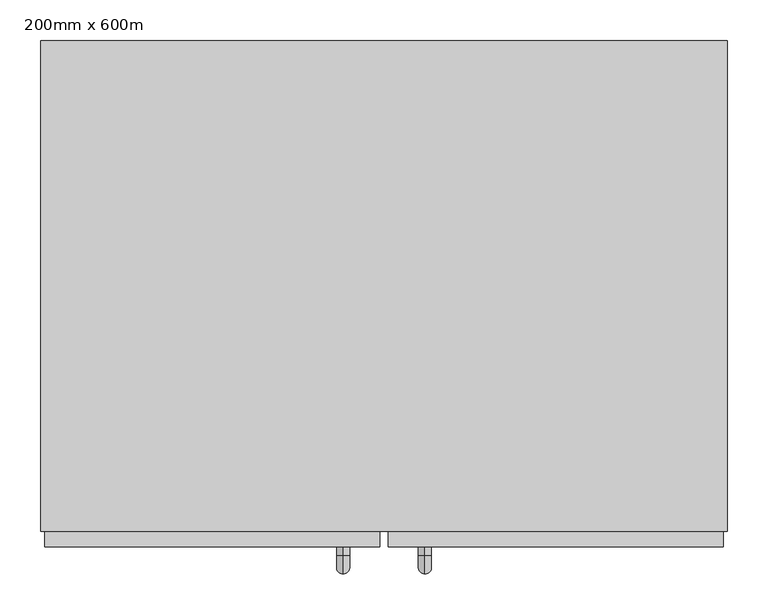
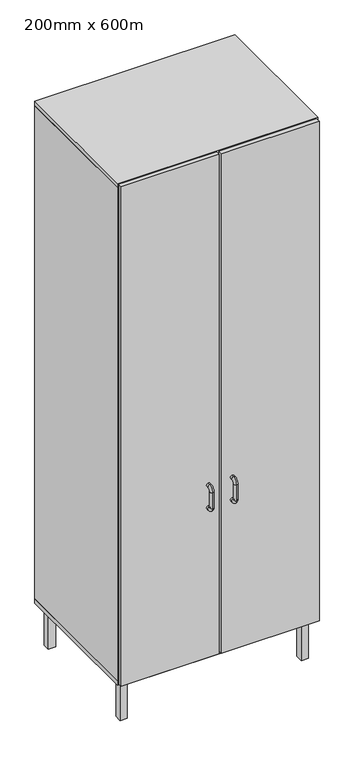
"""IFC4 building model written with IfcOpenShell, lengths in millimetres: furniture geometry, Armoire - 2 portes : 200mm x 600m."""

from ifc_helpers import new_model, si_unit, point, frame, origin, place, context, project, spatial, polyline, circle_curve, ellipse_curve, trimmed, outline, extrude, faceted_brep, source, transform, mapped, element, save
from ifc_brep_helpers import plane_surface, cylinder_surface, revolved_surface, advanced_brep


def furniture_200mm_x_600m_94c9277c(model_context):
    return source(origin(), model_context, "Body", "SolidModel", [
        extrude(outline(polyline([(500.4853226, 265.0), (-300.4853226, 265.0), (-300.4853226, 275.0), (500.4853226, 275.0), (500.4853226, 265.0)])), frame((0.0, 0.0, 199.0), z_axis=(0.0, 0.0, 1.0), x_axis=(1.0, 0.0, 0.0)), (0.0, 0.0, 1.0), 2182.0),
        extrude(outline(polyline([(-300.4853226, -325.0), (-319.4853226, -325.0), (-319.4853226, 275.0), (-300.4853226, 275.0), (-300.4853226, -325.0)])), frame((0.0, 0.0, 199.0), z_axis=(0.0, 0.0, 1.0), x_axis=(1.0, 0.0, 0.0)), (0.0, 0.0, 1.0), 2182.0),
        extrude(outline(polyline([(519.4853226, -325.0), (500.4853226, -325.0), (500.4853226, 275.0), (519.4853226, 275.0), (519.4853226, -325.0)])), frame((0.0, 0.0, 199.0), z_axis=(0.0, 0.0, 1.0), x_axis=(1.0, 0.0, 0.0)), (0.0, 0.0, 1.0), 2182.0),
        faceted_brep([(464.4853226, -270.0, 150.0), (464.4853226, -270.0, 180.0), (464.4853226, 220.0, 180.0), (464.4853226, 220.0, 150.0), (494.4853226, -300.0, 0.0), (494.4853226, -270.0, 0.0), (494.4853226, -270.0, 150.0), (494.4853226, 220.0, 150.0), (494.4853226, 220.0, 0.0), (494.4853226, 250.0, 0.0), (494.4853226, 250.0, 180.0), (494.4853226, -300.0, 180.0), (-264.4853226, 220.0, 180.0), (-264.4853226, 220.0, 150.0), (464.4853226, 250.0, 0.0), (464.4853226, 250.0, 150.0), (-264.4853226, 250.0, 150.0), (-264.4853226, 250.0, 0.0), (-294.4853226, 250.0, 0.0), (-294.4853226, 250.0, 180.0), (-264.4853226, -270.0, 180.0), (-264.4853226, -270.0, 150.0), (-294.4853226, 220.0, 0.0), (-294.4853226, 220.0, 150.0), (-294.4853226, -270.0, 150.0), (-294.4853226, -270.0, 0.0), (-294.4853226, -300.0, 0.0), (-294.4853226, -300.0, 180.0), (464.4853226, -300.0, 150.0), (-264.4853226, -300.0, 150.0), (-264.4853226, -300.0, 0.0), (464.4853226, -300.0, 0.0), (-264.4853226, -270.0, 0.0), (464.4853226, -270.0, 0.0), (-264.4853226, 220.0, 0.0), (464.4853226, 220.0, 0.0)], [[[0, 1, 2, 3]], [[4, 5, 6, 7, 8, 9, 10, 11]], [[3, 2, 12, 13]], [[10, 9, 14, 15, 16, 17, 18, 19]], [[13, 12, 20, 21]], [[19, 18, 22, 23, 24, 25, 26, 27]], [[1, 0, 21, 20]], [[0, 3, 7, 6]], [[3, 13, 16, 15]], [[13, 21, 24, 23]], [[21, 0, 28, 29]], [[4, 11, 27, 26, 30, 29, 28, 31]], [[10, 19, 27, 11], [2, 1, 20, 12]], [[30, 26, 25, 32]], [[4, 31, 33, 5]], [[34, 22, 18, 17]], [[8, 35, 14, 9]], [[30, 32, 21, 29]], [[32, 25, 24, 21]], [[34, 17, 16, 13]], [[22, 34, 13, 23]], [[14, 35, 3, 15]], [[35, 8, 7, 3]], [[5, 33, 0, 6]], [[33, 31, 28, 0]]]),
        extrude(outline(polyline([(95.0, -344.0), (-314.4853226, -344.0), (-314.4853226, -325.0), (95.0, -325.0), (95.0, -344.0)])), frame((0.0, 0.0, 185.0), z_axis=(0.0, 0.0, 1.0), x_axis=(1.0, 0.0, 0.0)), (0.0, 0.0, 1.0), 2210.0),
        extrude(outline(polyline([(514.4853226, -344.0), (105.0, -344.0), (105.0, -325.0), (514.4853226, -325.0), (514.4853226, -344.0)])), frame((0.0, 0.0, 185.0), z_axis=(0.0, 0.0, 1.0), x_axis=(1.0, 0.0, 0.0)), (0.0, 0.0, 1.0), 2210.0),
        extrude(outline(polyline([(519.4853226, -325.0), (-319.4853226, -325.0), (-319.4853226, 275.0), (519.4853226, 275.0), (519.4853226, -325.0)])), frame((0.0, 0.0, 180.0), z_axis=(0.0, 0.0, 1.0), x_axis=(1.0, 0.0, 0.0)), (0.0, 0.0, 1.0), 19.0),
        extrude(outline(polyline([(519.4853226, -325.0), (-319.4853226, -325.0), (-319.4853226, 275.0), (519.4853226, 275.0), (519.4853226, -325.0)])), frame((0.0, 0.0, 2381.0), z_axis=(0.0, 0.0, 1.0), x_axis=(1.0, 0.0, 0.0)), (0.0, 0.0, 1.0), 19.0),
        advanced_brep(
        [(50.0, -344.0, 958.0), (50.0, -344.0, 942.0), (50.0, -354.0, 958.0), (50.0, -354.0, 942.0), (50.0, -361.0, 935.0), (50.0, -377.0, 935.0), (50.0, -377.0, 865.0), (50.0, -361.0, 865.0), (50.0, -354.0, 858.0), (50.0, -354.0, 842.0), (50.0, -344.0, 842.0), (50.0, -344.0, 858.0)],
        [
            (0, 1, circle_curve(frame((50.0, -344.0, 950.0), z_axis=(0.0, 1.0, 0.0), x_axis=(0.0, 0.0, -1.0)), 8.0)),
            (1, 0, circle_curve(frame((50.0, -344.0, 950.0), z_axis=(0.0, 1.0, 0.0), x_axis=(0.0, 0.0, -1.0)), 8.0)),
            (0, 2),
            (2, 3, circle_curve(frame((50.0, -354.0, 950.0), z_axis=(0.0, 1.0, 0.0), x_axis=(0.0, 0.0, -1.0)), 8.0)),
            (3, 1),
            (3, 2, circle_curve(frame((50.0, -354.0, 950.0), z_axis=(0.0, 1.0, 0.0), x_axis=(0.0, 0.0, -1.0)), 8.0)),
            (4, 3, circle_curve(frame((50.0, -354.0, 935.0), z_axis=(-1.0, 0.0, 0.0), x_axis=(0.0, 0.0, 1.0)), 7.0)),
            (2, 5, circle_curve(frame((50.0, -354.0, 935.0), z_axis=(1.0, 0.0, 0.0), x_axis=(0.0, 0.0, 1.0)), 23.0)),
            (5, 4, circle_curve(frame((50.0, -369.0, 935.0), z_axis=(0.0, 0.0, 1.0), x_axis=(0.0, 1.0, 0.0)), 8.0)),
            (4, 5, circle_curve(frame((50.0, -369.0, 935.0), z_axis=(0.0, 0.0, 1.0), x_axis=(0.0, 1.0, 0.0)), 8.0)),
            (5, 6),
            (6, 7, circle_curve(frame((50.0, -369.0, 865.0), z_axis=(0.0, 0.0, 1.0), x_axis=(0.0, 1.0, 0.0)), 8.0)),
            (7, 4),
            (7, 6, circle_curve(frame((50.0, -369.0, 865.0), z_axis=(0.0, 0.0, 1.0), x_axis=(0.0, 1.0, 0.0)), 8.0)),
            (8, 7, circle_curve(frame((50.0, -354.0, 865.0), z_axis=(-1.0, 0.0, 0.0), x_axis=(0.0, -1.0, 0.0)), 7.0)),
            (6, 9, circle_curve(frame((50.0, -354.0, 865.0), z_axis=(1.0, 0.0, 0.0), x_axis=(0.0, -1.0, 0.0)), 23.0)),
            (9, 8, circle_curve(frame((50.0, -354.0, 850.0), z_axis=(0.0, -1.0, 0.0), x_axis=(0.0, 0.0, 1.0)), 8.0)),
            (8, 9, circle_curve(frame((50.0, -354.0, 850.0), z_axis=(0.0, -1.0, 0.0), x_axis=(0.0, 0.0, 1.0)), 8.0)),
            (10, 11, circle_curve(frame((50.0, -344.0, 850.0), z_axis=(0.0, 1.0, 0.0), x_axis=(0.0, 0.0, 1.0)), 8.0)),
            (11, 10, circle_curve(frame((50.0, -344.0, 850.0), z_axis=(0.0, 1.0, 0.0), x_axis=(0.0, 0.0, 1.0)), 8.0)),
            (9, 10),
            (11, 8),
        ],
        [
            plane_surface(frame((100.0, -344.0, 950.0), z_axis=(0.0, 1.0, 0.0), x_axis=(1.0, 0.0, 0.0))),
            cylinder_surface(frame((50.0, -344.0, 950.0), z_axis=(0.0, 1.0, 0.0), x_axis=(0.0, 0.0, -1.0)), 8.0),
            revolved_surface(trimmed(ellipse_curve(frame((50.0, -354.0, 950.0), z_axis=(0.0, 1.0, 0.0), x_axis=(0.0, 0.0, -1.0)), 8.0, 8.0), [point((50.0, -354.0, 958.0))], [point((50.0, -354.0, 942.0))], True, "CARTESIAN"), (100.0, -354.0, 935.0), (1.0, 0.0, 0.0)),
            revolved_surface(trimmed(ellipse_curve(frame((50.0, -354.0, 950.0), z_axis=(0.0, 1.0, 0.0), x_axis=(0.0, 0.0, -1.0)), 8.0, 8.0), [point((50.0, -354.0, 942.0))], [point((50.0, -354.0, 958.0))], True, "CARTESIAN"), (100.0, -354.0, 935.0), (1.0, 0.0, 0.0)),
            cylinder_surface(frame((50.0, -369.0, 935.0), z_axis=(0.0, 0.0, 1.0), x_axis=(0.0, 1.0, 0.0)), 8.0),
            revolved_surface(trimmed(ellipse_curve(frame((50.0, -369.0, 865.0), z_axis=(0.0, 0.0, 1.0), x_axis=(0.0, 1.0, 0.0)), 8.0, 8.0), [point((50.0, -377.0, 865.0))], [point((50.0, -361.0, 865.0))], True, "CARTESIAN"), (100.0, -354.0, 865.0), (1.0, 0.0, 0.0)),
            revolved_surface(trimmed(ellipse_curve(frame((50.0, -369.0, 865.0), z_axis=(0.0, 0.0, 1.0), x_axis=(0.0, 1.0, 0.0)), 8.0, 8.0), [point((50.0, -361.0, 865.0))], [point((50.0, -377.0, 865.0))], True, "CARTESIAN"), (100.0, -354.0, 865.0), (1.0, 0.0, 0.0)),
            plane_surface(frame((100.0, -344.0, 850.0), z_axis=(0.0, 1.0, 0.0), x_axis=(1.0, 0.0, 0.0))),
            cylinder_surface(frame((50.0, -354.0, 850.0), z_axis=(0.0, -1.0, 0.0), x_axis=(0.0, 0.0, 1.0)), 8.0),
        ],
        [
            (0, [[1, 2]]),
            (1, [[-1, 3, 4, 5]]),
            (1, [[-2, -5, 6, -3]]),
            (2, [[7, -4, 8, 9]]),
            (3, [[-8, -6, -7, 10]]),
            (4, [[-9, 11, 12, 13]]),
            (4, [[-10, -13, 14, -11]]),
            (5, [[15, -12, 16, 17]]),
            (6, [[-16, -14, -15, 18]]),
            (7, [[19, 20]]),
            (8, [[-17, 21, -20, 22]]),
            (8, [[-18, -22, -19, -21]]),
        ],
    ),
        advanced_brep(
        [(150.0, -344.0, 958.0), (150.0, -344.0, 942.0), (150.0, -354.0, 958.0), (150.0, -354.0, 942.0), (150.0, -361.0, 935.0), (150.0, -377.0, 935.0), (150.0, -377.0, 865.0), (150.0, -361.0, 865.0), (150.0, -354.0, 858.0), (150.0, -354.0, 842.0), (150.0, -344.0, 842.0), (150.0, -344.0, 858.0)],
        [
            (0, 1, circle_curve(frame((150.0, -344.0, 950.0), z_axis=(0.0, 1.0, 0.0), x_axis=(0.0, 0.0, -1.0)), 8.0)),
            (1, 0, circle_curve(frame((150.0, -344.0, 950.0), z_axis=(0.0, 1.0, 0.0), x_axis=(0.0, 0.0, -1.0)), 8.0)),
            (0, 2),
            (2, 3, circle_curve(frame((150.0, -354.0, 950.0), z_axis=(0.0, 1.0, 0.0), x_axis=(0.0, 0.0, -1.0)), 8.0)),
            (3, 1),
            (3, 2, circle_curve(frame((150.0, -354.0, 950.0), z_axis=(0.0, 1.0, 0.0), x_axis=(0.0, 0.0, -1.0)), 8.0)),
            (4, 3, circle_curve(frame((150.0, -354.0, 935.0), z_axis=(-1.0, 0.0, 0.0), x_axis=(0.0, 0.0, 1.0)), 7.0)),
            (2, 5, circle_curve(frame((150.0, -354.0, 935.0), z_axis=(1.0, 0.0, 0.0), x_axis=(0.0, 0.0, 1.0)), 23.0)),
            (5, 4, circle_curve(frame((150.0, -369.0, 935.0), z_axis=(0.0, 0.0, 1.0), x_axis=(0.0, 1.0, 0.0)), 8.0)),
            (4, 5, circle_curve(frame((150.0, -369.0, 935.0), z_axis=(0.0, 0.0, 1.0), x_axis=(0.0, 1.0, 0.0)), 8.0)),
            (5, 6),
            (6, 7, circle_curve(frame((150.0, -369.0, 865.0), z_axis=(0.0, 0.0, 1.0), x_axis=(0.0, 1.0, 0.0)), 8.0)),
            (7, 4),
            (7, 6, circle_curve(frame((150.0, -369.0, 865.0), z_axis=(0.0, 0.0, 1.0), x_axis=(0.0, 1.0, 0.0)), 8.0)),
            (8, 7, circle_curve(frame((150.0, -354.0, 865.0), z_axis=(-1.0, 0.0, 0.0), x_axis=(0.0, -1.0, 0.0)), 7.0)),
            (6, 9, circle_curve(frame((150.0, -354.0, 865.0), z_axis=(1.0, 0.0, 0.0), x_axis=(0.0, -1.0, 0.0)), 23.0)),
            (9, 8, circle_curve(frame((150.0, -354.0, 850.0), z_axis=(0.0, -1.0, 0.0), x_axis=(0.0, 0.0, 1.0)), 8.0)),
            (8, 9, circle_curve(frame((150.0, -354.0, 850.0), z_axis=(0.0, -1.0, 0.0), x_axis=(0.0, 0.0, 1.0)), 8.0)),
            (10, 11, circle_curve(frame((150.0, -344.0, 850.0), z_axis=(0.0, 1.0, 0.0), x_axis=(0.0, 0.0, 1.0)), 8.0)),
            (11, 10, circle_curve(frame((150.0, -344.0, 850.0), z_axis=(0.0, 1.0, 0.0), x_axis=(0.0, 0.0, 1.0)), 8.0)),
            (9, 10),
            (11, 8),
        ],
        [
            plane_surface(frame((100.0, -344.0, 950.0), z_axis=(0.0, 1.0, 0.0), x_axis=(1.0, 0.0, 0.0))),
            cylinder_surface(frame((150.0, -344.0, 950.0), z_axis=(0.0, 1.0, 0.0), x_axis=(0.0, 0.0, -1.0)), 8.0),
            revolved_surface(trimmed(ellipse_curve(frame((150.0, -354.0, 950.0), z_axis=(0.0, 1.0, 0.0), x_axis=(0.0, 0.0, -1.0)), 8.0, 8.0), [point((150.0, -354.0, 958.0))], [point((150.0, -354.0, 942.0))], True, "CARTESIAN"), (100.0, -354.0, 935.0), (1.0, 0.0, 0.0)),
            revolved_surface(trimmed(ellipse_curve(frame((150.0, -354.0, 950.0), z_axis=(0.0, 1.0, 0.0), x_axis=(0.0, 0.0, -1.0)), 8.0, 8.0), [point((150.0, -354.0, 942.0))], [point((150.0, -354.0, 958.0))], True, "CARTESIAN"), (100.0, -354.0, 935.0), (1.0, 0.0, 0.0)),
            cylinder_surface(frame((150.0, -369.0, 935.0), z_axis=(0.0, 0.0, 1.0), x_axis=(0.0, 1.0, 0.0)), 8.0),
            revolved_surface(trimmed(ellipse_curve(frame((150.0, -369.0, 865.0), z_axis=(0.0, 0.0, 1.0), x_axis=(0.0, 1.0, 0.0)), 8.0, 8.0), [point((150.0, -377.0, 865.0))], [point((150.0, -361.0, 865.0))], True, "CARTESIAN"), (100.0, -354.0, 865.0), (1.0, 0.0, 0.0)),
            revolved_surface(trimmed(ellipse_curve(frame((150.0, -369.0, 865.0), z_axis=(0.0, 0.0, 1.0), x_axis=(0.0, 1.0, 0.0)), 8.0, 8.0), [point((150.0, -361.0, 865.0))], [point((150.0, -377.0, 865.0))], True, "CARTESIAN"), (100.0, -354.0, 865.0), (1.0, 0.0, 0.0)),
            plane_surface(frame((100.0, -344.0, 850.0), z_axis=(0.0, 1.0, 0.0), x_axis=(1.0, 0.0, 0.0))),
            cylinder_surface(frame((150.0, -354.0, 850.0), z_axis=(0.0, -1.0, 0.0), x_axis=(0.0, 0.0, 1.0)), 8.0),
        ],
        [
            (0, [[1, 2]]),
            (1, [[-1, 3, 4, 5]]),
            (1, [[-2, -5, 6, -3]]),
            (2, [[7, -4, 8, 9]]),
            (3, [[-8, -6, -7, 10]]),
            (4, [[-9, 11, 12, 13]]),
            (4, [[-10, -13, 14, -11]]),
            (5, [[15, -12, 16, 17]]),
            (6, [[-16, -14, -15, 18]]),
            (7, [[19, 20]]),
            (8, [[-17, 21, -20, 22]]),
            (8, [[-18, -22, -19, -21]]),
        ],
    ),
    ])


if __name__ == "__main__":
    model = new_model("IFC4")
    model_context = context("Model", 3, world=origin())
    ifc_project = project(units=[si_unit("LENGTHUNIT", "METRE", prefix="MILLI")], contexts=[model_context])
    site = spatial("IfcSite", under=ifc_project)
    building = spatial("IfcBuilding", under=site)
    placement = place(None, origin())
    furniture_200mm_x_600m_shape = furniture_200mm_x_600m_94c9277c(model_context)
    element("IfcFurniture", 1, ObjectType="Armoire - 2 portes : 200mm x 600m", at=placement, inside=building, context=model_context, shape_type="MappedRepresentation", body=[
        mapped(furniture_200mm_x_600m_shape, transform((0.0, 0.0, 0.0), x_axis=(1.0, 0.0, 0.0), y_axis=(0.0, 1.0, 0.0), z_axis=(0.0, 0.0, 1.0))),
    ])
    save(model, "model.ifc")
